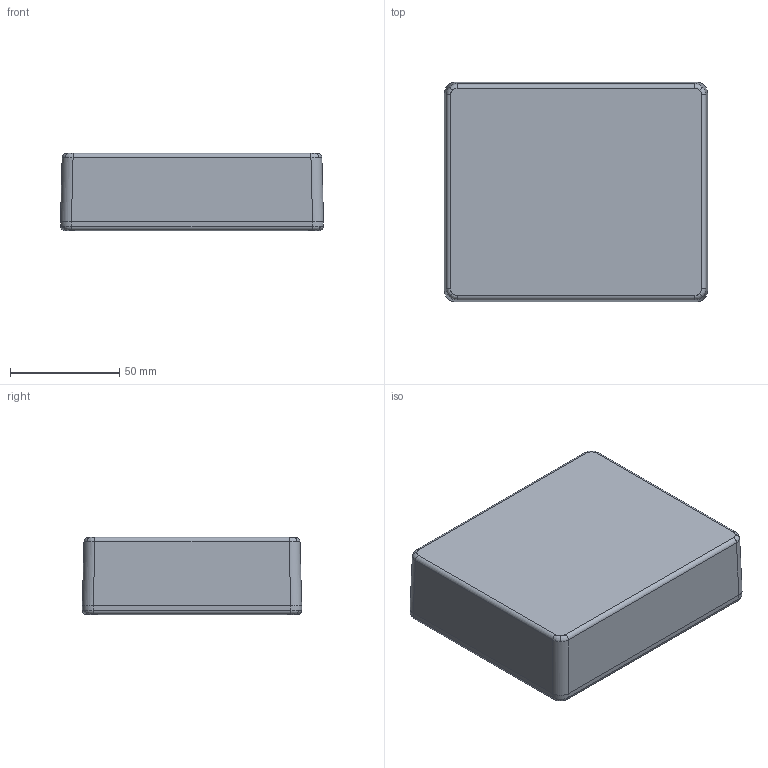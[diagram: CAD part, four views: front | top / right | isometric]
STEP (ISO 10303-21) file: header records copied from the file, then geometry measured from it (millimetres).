
FILE_DESCRIPTION(/* description */ (''),/* implementation_level */ '2;1');
FILE_NAME(/* name */ 'E:\Eng\Customer Service\Drawings\new 1550\STEP\1550M\1550M.iam.stp',/* time_stamp */ '2014-10-29T10:14:14-04:00',/* author */ ('tcook'),/* organization */ (''),/* preprocessor_version */ 'ST-DEVELOPER v15.2',/* originating_system */ 'Autodesk Inventor 2014',/* authorisation */ '');
FILE_SCHEMA (('AUTOMOTIVE_DESIGN { 1 0 10303 214 3 1 1 }'));
Products named in the file (4): 1550M BOX; 1550M LID; SC1550 (screw M3.5-0.6X 12mm FH); 1550M
Bounding box: 120.4 x 100.4 x 35.4 mm (x, y, z)
Volume: 74106.6 mm3; surface area: 77767.9 mm2
Topology: 6 solids, 6 shells, 905 faces, 2408 edges, 1566 vertices
Faces by surface type: bspline 364, plane 357, cone 76, cylinder 68, torus 40
Full cylindrical faces by diameter (mm): 3.43 x4
Entity records: 42034 total; most frequent: CARTESIAN_POINT 23805, ORIENTED_EDGE 4322, DIRECTION 2736, EDGE_CURVE 2161, VERTEX_POINT 1423, LINE 1090, VECTOR 1090, EDGE_LOOP 924
